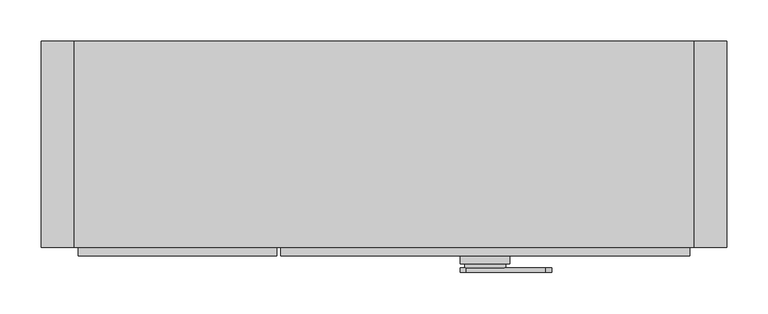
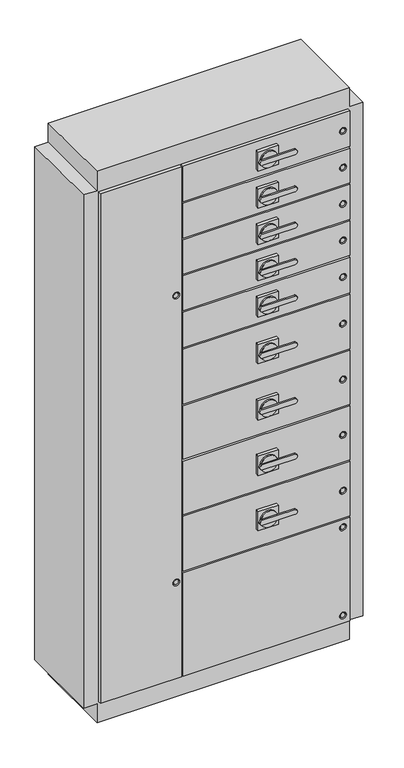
"""IFC4 building model written with IfcOpenShell, lengths in millimetres: electric distribution board geometry, nbl_CubicleSwitchboards_1.0 : nbl_CubicleSwitchboards_1.0."""

from ifc_helpers import new_model, si_unit, point, frame, frame_2d, origin, place, context, project, spatial, polyline, circle_curve, trimmed, segment, composite_curve, outline, extrude, source, transform, mapped, element, save
from ifc_brep_helpers import plane_surface, revolved_surface, advanced_brep


def electric_distribution_board_2e1e9983(model_context):
    return source(origin(), model_context, "Body", "SolidModel", [
        extrude(outline(composite_curve([segment(polyline([(1615.6040038, 195.4759984), (1615.6040038, 99.7713907)]), True, "CONTINUOUS"), segment(trimmed(circle_curve(frame_2d((1608.1040038, 99.7713907)), 7.5), [point((1615.6040038, 99.7713907))], [point((1600.6040038, 99.7713907))], False, "CARTESIAN"), True, "CONTINUOUS"), segment(polyline([(1600.6040038, 99.7713907), (1600.6040038, 195.4759984)]), True, "CONTINUOUS"), segment(trimmed(circle_curve(frame_2d((1608.1040038, 195.4759984)), 7.5), [point((1600.6040038, 195.4759984))], [point((1615.6040038, 195.4759984))], False, "CARTESIAN"), True, "CONTINUOUS")], self_intersect=False)), frame((0.0, -280.0, 0.0), z_axis=(0.0, 1.0, 0.0), x_axis=(0.0, 0.0, 1.0)), (0.0, 0.0, 1.0), 5.0),
        extrude(outline(composite_curve([segment(trimmed(circle_curve(frame_2d((1608.484989, 122.5)), 25.0), [point((1608.484989, 97.5))], [point((1608.484989, 147.5))], False, "CARTESIAN"), True, "CONTINUOUS"), segment(trimmed(circle_curve(frame_2d((1608.484989, 122.5)), 25.0), [point((1608.484989, 147.5))], [point((1608.484989, 97.5))], False, "CARTESIAN"), True, "CONTINUOUS")], self_intersect=False)), frame((0.0, -275.0, 0.0), z_axis=(0.0, 1.0, 0.0), x_axis=(0.0, 0.0, 1.0)), (0.0, 0.0, 1.0), 5.0),
        extrude(outline(polyline([(152.5, -270.0), (92.5, -270.0), (92.5, -260.0), (152.5, -260.0), (152.5, -270.0)])), frame((0.0, 0.0, 1578.9995334), z_axis=(0.0, 0.0, 1.0), x_axis=(1.0, 0.0, 0.0)), (0.0, 0.0, 1.0), 60.0),
        extrude(outline(composite_curve([segment(polyline([(1499.1040038, 195.4759984), (1499.1040038, 99.7713907)]), True, "CONTINUOUS"), segment(trimmed(circle_curve(frame_2d((1491.6040038, 99.7713907)), 7.5), [point((1499.1040038, 99.7713907))], [point((1484.1040038, 99.7713907))], False, "CARTESIAN"), True, "CONTINUOUS"), segment(polyline([(1484.1040038, 99.7713907), (1484.1040038, 195.4759984)]), True, "CONTINUOUS"), segment(trimmed(circle_curve(frame_2d((1491.6040038, 195.4759984)), 7.5), [point((1484.1040038, 195.4759984))], [point((1499.1040038, 195.4759984))], False, "CARTESIAN"), True, "CONTINUOUS")], self_intersect=False)), frame((0.0, -280.0, 0.0), z_axis=(0.0, 1.0, 0.0), x_axis=(0.0, 0.0, 1.0)), (0.0, 0.0, 1.0), 5.0),
        extrude(outline(composite_curve([segment(trimmed(circle_curve(frame_2d((1491.984989, 122.5)), 25.0), [point((1491.984989, 97.5))], [point((1491.984989, 147.5))], False, "CARTESIAN"), True, "CONTINUOUS"), segment(trimmed(circle_curve(frame_2d((1491.984989, 122.5)), 25.0), [point((1491.984989, 147.5))], [point((1491.984989, 97.5))], False, "CARTESIAN"), True, "CONTINUOUS")], self_intersect=False)), frame((0.0, -275.0, 0.0), z_axis=(0.0, 1.0, 0.0), x_axis=(0.0, 0.0, 1.0)), (0.0, 0.0, 1.0), 5.0),
        extrude(outline(polyline([(152.5, -270.0), (92.5, -270.0), (92.5, -260.0), (152.5, -260.0), (152.5, -270.0)])), frame((0.0, 0.0, 1462.4995334), z_axis=(0.0, 0.0, 1.0), x_axis=(1.0, 0.0, 0.0)), (0.0, 0.0, 1.0), 60.0),
        extrude(outline(composite_curve([segment(polyline([(1385.1040038, 195.4759984), (1385.1040038, 99.7713907)]), True, "CONTINUOUS"), segment(trimmed(circle_curve(frame_2d((1377.6040038, 99.7713907)), 7.5), [point((1385.1040038, 99.7713907))], [point((1370.1040038, 99.7713907))], False, "CARTESIAN"), True, "CONTINUOUS"), segment(polyline([(1370.1040038, 99.7713907), (1370.1040038, 195.4759984)]), True, "CONTINUOUS"), segment(trimmed(circle_curve(frame_2d((1377.6040038, 195.4759984)), 7.5), [point((1370.1040038, 195.4759984))], [point((1385.1040038, 195.4759984))], False, "CARTESIAN"), True, "CONTINUOUS")], self_intersect=False)), frame((0.0, -280.0, 0.0), z_axis=(0.0, 1.0, 0.0), x_axis=(0.0, 0.0, 1.0)), (0.0, 0.0, 1.0), 5.0),
        extrude(outline(composite_curve([segment(trimmed(circle_curve(frame_2d((1377.984989, 122.5)), 25.0), [point((1377.984989, 97.5))], [point((1377.984989, 147.5))], False, "CARTESIAN"), True, "CONTINUOUS"), segment(trimmed(circle_curve(frame_2d((1377.984989, 122.5)), 25.0), [point((1377.984989, 147.5))], [point((1377.984989, 97.5))], False, "CARTESIAN"), True, "CONTINUOUS")], self_intersect=False)), frame((0.0, -275.0, 0.0), z_axis=(0.0, 1.0, 0.0), x_axis=(0.0, 0.0, 1.0)), (0.0, 0.0, 1.0), 5.0),
        extrude(outline(polyline([(152.5, -270.0), (92.5, -270.0), (92.5, -260.0), (152.5, -260.0), (152.5, -270.0)])), frame((0.0, 0.0, 1348.4995334), z_axis=(0.0, 0.0, 1.0), x_axis=(1.0, 0.0, 0.0)), (0.0, 0.0, 1.0), 60.0),
        extrude(outline(composite_curve([segment(polyline([(1271.1040038, 195.4759984), (1271.1040038, 99.7713907)]), True, "CONTINUOUS"), segment(trimmed(circle_curve(frame_2d((1263.6040038, 99.7713907)), 7.5), [point((1271.1040038, 99.7713907))], [point((1256.1040038, 99.7713907))], False, "CARTESIAN"), True, "CONTINUOUS"), segment(polyline([(1256.1040038, 99.7713907), (1256.1040038, 195.4759984)]), True, "CONTINUOUS"), segment(trimmed(circle_curve(frame_2d((1263.6040038, 195.4759984)), 7.5), [point((1256.1040038, 195.4759984))], [point((1271.1040038, 195.4759984))], False, "CARTESIAN"), True, "CONTINUOUS")], self_intersect=False)), frame((0.0, -280.0, 0.0), z_axis=(0.0, 1.0, 0.0), x_axis=(0.0, 0.0, 1.0)), (0.0, 0.0, 1.0), 5.0),
        extrude(outline(composite_curve([segment(trimmed(circle_curve(frame_2d((1263.984989, 122.5)), 25.0), [point((1263.984989, 97.5))], [point((1263.984989, 147.5))], False, "CARTESIAN"), True, "CONTINUOUS"), segment(trimmed(circle_curve(frame_2d((1263.984989, 122.5)), 25.0), [point((1263.984989, 147.5))], [point((1263.984989, 97.5))], False, "CARTESIAN"), True, "CONTINUOUS")], self_intersect=False)), frame((0.0, -275.0, 0.0), z_axis=(0.0, 1.0, 0.0), x_axis=(0.0, 0.0, 1.0)), (0.0, 0.0, 1.0), 5.0),
        extrude(outline(polyline([(152.5, -270.0), (92.5, -270.0), (92.5, -260.0), (152.5, -260.0), (152.5, -270.0)])), frame((0.0, 0.0, 1234.4995334), z_axis=(0.0, 0.0, 1.0), x_axis=(1.0, 0.0, 0.0)), (0.0, 0.0, 1.0), 60.0),
        extrude(outline(composite_curve([segment(polyline([(1157.1040038, 195.4759984), (1157.1040038, 99.7713907)]), True, "CONTINUOUS"), segment(trimmed(circle_curve(frame_2d((1149.6040038, 99.7713907)), 7.5), [point((1157.1040038, 99.7713907))], [point((1142.1040038, 99.7713907))], False, "CARTESIAN"), True, "CONTINUOUS"), segment(polyline([(1142.1040038, 99.7713907), (1142.1040038, 195.4759984)]), True, "CONTINUOUS"), segment(trimmed(circle_curve(frame_2d((1149.6040038, 195.4759984)), 7.5), [point((1142.1040038, 195.4759984))], [point((1157.1040038, 195.4759984))], False, "CARTESIAN"), True, "CONTINUOUS")], self_intersect=False)), frame((0.0, -280.0, 0.0), z_axis=(0.0, 1.0, 0.0), x_axis=(0.0, 0.0, 1.0)), (0.0, 0.0, 1.0), 5.0),
        extrude(outline(composite_curve([segment(trimmed(circle_curve(frame_2d((1149.984989, 122.5)), 25.0), [point((1149.984989, 97.5))], [point((1149.984989, 147.5))], False, "CARTESIAN"), True, "CONTINUOUS"), segment(trimmed(circle_curve(frame_2d((1149.984989, 122.5)), 25.0), [point((1149.984989, 147.5))], [point((1149.984989, 97.5))], False, "CARTESIAN"), True, "CONTINUOUS")], self_intersect=False)), frame((0.0, -275.0, 0.0), z_axis=(0.0, 1.0, 0.0), x_axis=(0.0, 0.0, 1.0)), (0.0, 0.0, 1.0), 5.0),
        extrude(outline(polyline([(152.5, -270.0), (92.5, -270.0), (92.5, -260.0), (152.5, -260.0), (152.5, -270.0)])), frame((0.0, 0.0, 1120.4995334), z_axis=(0.0, 0.0, 1.0), x_axis=(1.0, 0.0, 0.0)), (0.0, 0.0, 1.0), 60.0),
        extrude(outline(composite_curve([segment(polyline([(1010.7040038, 195.4759984), (1010.7040038, 99.7713907)]), True, "CONTINUOUS"), segment(trimmed(circle_curve(frame_2d((1003.2040038, 99.7713907)), 7.5), [point((1010.7040038, 99.7713907))], [point((995.7040038, 99.7713907))], False, "CARTESIAN"), True, "CONTINUOUS"), segment(polyline([(995.7040038, 99.7713907), (995.7040038, 195.4759984)]), True, "CONTINUOUS"), segment(trimmed(circle_curve(frame_2d((1003.2040038, 195.4759984)), 7.5), [point((995.7040038, 195.4759984))], [point((1010.7040038, 195.4759984))], False, "CARTESIAN"), True, "CONTINUOUS")], self_intersect=False)), frame((0.0, -280.0, 0.0), z_axis=(0.0, 1.0, 0.0), x_axis=(0.0, 0.0, 1.0)), (0.0, 0.0, 1.0), 5.0),
        extrude(outline(composite_curve([segment(trimmed(circle_curve(frame_2d((1003.584989, 122.5)), 25.0), [point((1003.584989, 97.5))], [point((1003.584989, 147.5))], False, "CARTESIAN"), True, "CONTINUOUS"), segment(trimmed(circle_curve(frame_2d((1003.584989, 122.5)), 25.0), [point((1003.584989, 147.5))], [point((1003.584989, 97.5))], False, "CARTESIAN"), True, "CONTINUOUS")], self_intersect=False)), frame((0.0, -275.0, 0.0), z_axis=(0.0, 1.0, 0.0), x_axis=(0.0, 0.0, 1.0)), (0.0, 0.0, 1.0), 5.0),
        extrude(outline(polyline([(152.5, -270.0), (92.5, -270.0), (92.5, -260.0), (152.5, -260.0), (152.5, -270.0)])), frame((0.0, 0.0, 974.0995334), z_axis=(0.0, 0.0, 1.0), x_axis=(1.0, 0.0, 0.0)), (0.0, 0.0, 1.0), 60.0),
        extrude(outline(composite_curve([segment(polyline([(834.6040038, 195.4759984), (834.6040038, 99.7713907)]), True, "CONTINUOUS"), segment(trimmed(circle_curve(frame_2d((827.1040038, 99.7713907)), 7.5), [point((834.6040038, 99.7713907))], [point((819.6040038, 99.7713907))], False, "CARTESIAN"), True, "CONTINUOUS"), segment(polyline([(819.6040038, 99.7713907), (819.6040038, 195.4759984)]), True, "CONTINUOUS"), segment(trimmed(circle_curve(frame_2d((827.1040038, 195.4759984)), 7.5), [point((819.6040038, 195.4759984))], [point((834.6040038, 195.4759984))], False, "CARTESIAN"), True, "CONTINUOUS")], self_intersect=False)), frame((0.0, -280.0, 0.0), z_axis=(0.0, 1.0, 0.0), x_axis=(0.0, 0.0, 1.0)), (0.0, 0.0, 1.0), 5.0),
        extrude(outline(composite_curve([segment(trimmed(circle_curve(frame_2d((827.484989, 122.5)), 25.0), [point((827.484989, 97.5))], [point((827.484989, 147.5))], False, "CARTESIAN"), True, "CONTINUOUS"), segment(trimmed(circle_curve(frame_2d((827.484989, 122.5)), 25.0), [point((827.484989, 147.5))], [point((827.484989, 97.5))], False, "CARTESIAN"), True, "CONTINUOUS")], self_intersect=False)), frame((0.0, -275.0, 0.0), z_axis=(0.0, 1.0, 0.0), x_axis=(0.0, 0.0, 1.0)), (0.0, 0.0, 1.0), 5.0),
        extrude(outline(polyline([(152.5, -270.0), (92.5, -270.0), (92.5, -260.0), (152.5, -260.0), (152.5, -270.0)])), frame((0.0, 0.0, 797.9995334), z_axis=(0.0, 0.0, 1.0), x_axis=(1.0, 0.0, 0.0)), (0.0, 0.0, 1.0), 60.0),
        extrude(outline(composite_curve([segment(polyline([(660.8040038, 195.4759984), (660.8040038, 99.7713907)]), True, "CONTINUOUS"), segment(trimmed(circle_curve(frame_2d((653.3040038, 99.7713907)), 7.5), [point((660.8040038, 99.7713907))], [point((645.8040038, 99.7713907))], False, "CARTESIAN"), True, "CONTINUOUS"), segment(polyline([(645.8040038, 99.7713907), (645.8040038, 195.4759984)]), True, "CONTINUOUS"), segment(trimmed(circle_curve(frame_2d((653.3040038, 195.4759984)), 7.5), [point((645.8040038, 195.4759984))], [point((660.8040038, 195.4759984))], False, "CARTESIAN"), True, "CONTINUOUS")], self_intersect=False)), frame((0.0, -280.0, 0.0), z_axis=(0.0, 1.0, 0.0), x_axis=(0.0, 0.0, 1.0)), (0.0, 0.0, 1.0), 5.0),
        extrude(outline(composite_curve([segment(trimmed(circle_curve(frame_2d((653.684989, 122.5)), 25.0), [point((653.684989, 97.5))], [point((653.684989, 147.5))], False, "CARTESIAN"), True, "CONTINUOUS"), segment(trimmed(circle_curve(frame_2d((653.684989, 122.5)), 25.0), [point((653.684989, 147.5))], [point((653.684989, 97.5))], False, "CARTESIAN"), True, "CONTINUOUS")], self_intersect=False)), frame((0.0, -275.0, 0.0), z_axis=(0.0, 1.0, 0.0), x_axis=(0.0, 0.0, 1.0)), (0.0, 0.0, 1.0), 5.0),
        extrude(outline(polyline([(152.5, -270.0), (92.5, -270.0), (92.5, -260.0), (152.5, -260.0), (152.5, -270.0)])), frame((0.0, 0.0, 624.1995334), z_axis=(0.0, 0.0, 1.0), x_axis=(1.0, 0.0, 0.0)), (0.0, 0.0, 1.0), 60.0),
        extrude(outline(composite_curve([segment(polyline([(487.0040038, 195.4759984), (487.0040038, 99.7713907)]), True, "CONTINUOUS"), segment(trimmed(circle_curve(frame_2d((479.5040038, 99.7713907)), 7.5), [point((487.0040038, 99.7713907))], [point((472.0040038, 99.7713907))], False, "CARTESIAN"), True, "CONTINUOUS"), segment(polyline([(472.0040038, 99.7713907), (472.0040038, 195.4759984)]), True, "CONTINUOUS"), segment(trimmed(circle_curve(frame_2d((479.5040038, 195.4759984)), 7.5), [point((472.0040038, 195.4759984))], [point((487.0040038, 195.4759984))], False, "CARTESIAN"), True, "CONTINUOUS")], self_intersect=False)), frame((0.0, -280.0, 0.0), z_axis=(0.0, 1.0, 0.0), x_axis=(0.0, 0.0, 1.0)), (0.0, 0.0, 1.0), 5.0),
        extrude(outline(composite_curve([segment(trimmed(circle_curve(frame_2d((479.884989, 122.5)), 25.0), [point((479.884989, 97.5))], [point((479.884989, 147.5))], False, "CARTESIAN"), True, "CONTINUOUS"), segment(trimmed(circle_curve(frame_2d((479.884989, 122.5)), 25.0), [point((479.884989, 147.5))], [point((479.884989, 97.5))], False, "CARTESIAN"), True, "CONTINUOUS")], self_intersect=False)), frame((0.0, -275.0, 0.0), z_axis=(0.0, 1.0, 0.0), x_axis=(0.0, 0.0, 1.0)), (0.0, 0.0, 1.0), 5.0),
        extrude(outline(polyline([(152.5, -270.0), (92.5, -270.0), (92.5, -260.0), (152.5, -260.0), (152.5, -270.0)])), frame((0.0, 0.0, 450.3995334), z_axis=(0.0, 0.0, 1.0), x_axis=(1.0, 0.0, 0.0)), (0.0, 0.0, 1.0), 60.0),
        extrude(outline(composite_curve([segment(trimmed(circle_curve(frame_2d((1265.7495334, -145.0)), 7.0), [point((1265.7495334, -152.0))], [point((1265.7495334, -138.0))], False, "CARTESIAN"), True, "CONTINUOUS"), segment(trimmed(circle_curve(frame_2d((1265.7495334, -145.0)), 7.0), [point((1265.7495334, -138.0))], [point((1265.7495334, -152.0))], False, "CARTESIAN"), True, "CONTINUOUS")], self_intersect=False)), frame((0.0, -258.0, 0.0), z_axis=(0.0, 1.0, 0.0), x_axis=(0.0, 0.0, 1.0)), (0.0, 0.0, 1.0), 5.0),
        extrude(outline(composite_curve([segment(trimmed(circle_curve(frame_2d((365.7495334, -145.0)), 7.0), [point((365.7495334, -152.0))], [point((365.7495334, -138.0))], False, "CARTESIAN"), True, "CONTINUOUS"), segment(trimmed(circle_curve(frame_2d((365.7495334, -145.0)), 7.0), [point((365.7495334, -138.0))], [point((365.7495334, -152.0))], False, "CARTESIAN"), True, "CONTINUOUS")], self_intersect=False)), frame((0.0, -258.0, 0.0), z_axis=(0.0, 1.0, 0.0), x_axis=(0.0, 0.0, 1.0)), (0.0, 0.0, 1.0), 5.0),
        extrude(outline(composite_curve([segment(trimmed(circle_curve(frame_2d((365.7495334, 350.0)), 7.0), [point((365.7495334, 343.0))], [point((365.7495334, 357.0))], False, "CARTESIAN"), True, "CONTINUOUS"), segment(trimmed(circle_curve(frame_2d((365.7495334, 350.0)), 7.0), [point((365.7495334, 357.0))], [point((365.7495334, 343.0))], False, "CARTESIAN"), True, "CONTINUOUS")], self_intersect=False)), frame((0.0, -258.0, 0.0), z_axis=(0.0, 1.0, 0.0), x_axis=(0.0, 0.0, 1.0)), (0.0, 0.0, 1.0), 5.0),
        extrude(outline(composite_curve([segment(trimmed(circle_curve(frame_2d((480.3995334, 350.0)), 7.0), [point((480.3995334, 343.0))], [point((480.3995334, 357.0))], False, "CARTESIAN"), True, "CONTINUOUS"), segment(trimmed(circle_curve(frame_2d((480.3995334, 350.0)), 7.0), [point((480.3995334, 357.0))], [point((480.3995334, 343.0))], False, "CARTESIAN"), True, "CONTINUOUS")], self_intersect=False)), frame((0.0, -258.0, 0.0), z_axis=(0.0, 1.0, 0.0), x_axis=(0.0, 0.0, 1.0)), (0.0, 0.0, 1.0), 5.0),
        extrude(outline(composite_curve([segment(trimmed(circle_curve(frame_2d((655.4495334, 350.0)), 7.0), [point((655.4495334, 343.0))], [point((655.4495334, 357.0))], False, "CARTESIAN"), True, "CONTINUOUS"), segment(trimmed(circle_curve(frame_2d((655.4495334, 350.0)), 7.0), [point((655.4495334, 357.0))], [point((655.4495334, 343.0))], False, "CARTESIAN"), True, "CONTINUOUS")], self_intersect=False)), frame((0.0, -258.0, 0.0), z_axis=(0.0, 1.0, 0.0), x_axis=(0.0, 0.0, 1.0)), (0.0, 0.0, 1.0), 5.0),
        extrude(outline(composite_curve([segment(trimmed(circle_curve(frame_2d((1004.1995334, 350.0)), 7.0), [point((1004.1995334, 343.0))], [point((1004.1995334, 357.0))], False, "CARTESIAN"), True, "CONTINUOUS"), segment(trimmed(circle_curve(frame_2d((1004.1995334, 350.0)), 7.0), [point((1004.1995334, 357.0))], [point((1004.1995334, 343.0))], False, "CARTESIAN"), True, "CONTINUOUS")], self_intersect=False)), frame((0.0, -258.0, 0.0), z_axis=(0.0, 1.0, 0.0), x_axis=(0.0, 0.0, 1.0)), (0.0, 0.0, 1.0), 5.0),
        extrude(outline(composite_curve([segment(trimmed(circle_curve(frame_2d((1150.4995334, 350.0)), 7.0), [point((1150.4995334, 343.0))], [point((1150.4995334, 357.0))], False, "CARTESIAN"), True, "CONTINUOUS"), segment(trimmed(circle_curve(frame_2d((1150.4995334, 350.0)), 7.0), [point((1150.4995334, 357.0))], [point((1150.4995334, 343.0))], False, "CARTESIAN"), True, "CONTINUOUS")], self_intersect=False)), frame((0.0, -258.0, 0.0), z_axis=(0.0, 1.0, 0.0), x_axis=(0.0, 0.0, 1.0)), (0.0, 0.0, 1.0), 5.0),
        extrude(outline(composite_curve([segment(trimmed(circle_curve(frame_2d((1265.7495334, 350.0)), 7.0), [point((1265.7495334, 343.0))], [point((1265.7495334, 357.0))], False, "CARTESIAN"), True, "CONTINUOUS"), segment(trimmed(circle_curve(frame_2d((1265.7495334, 350.0)), 7.0), [point((1265.7495334, 357.0))], [point((1265.7495334, 343.0))], False, "CARTESIAN"), True, "CONTINUOUS")], self_intersect=False)), frame((0.0, -258.0, 0.0), z_axis=(0.0, 1.0, 0.0), x_axis=(0.0, 0.0, 1.0)), (0.0, 0.0, 1.0), 5.0),
        extrude(outline(composite_curve([segment(trimmed(circle_curve(frame_2d((1493.7495334, 350.0)), 7.0), [point((1493.7495334, 343.0))], [point((1493.7495334, 357.0))], False, "CARTESIAN"), True, "CONTINUOUS"), segment(trimmed(circle_curve(frame_2d((1493.7495334, 350.0)), 7.0), [point((1493.7495334, 357.0))], [point((1493.7495334, 343.0))], False, "CARTESIAN"), True, "CONTINUOUS")], self_intersect=False)), frame((0.0, -258.0, 0.0), z_axis=(0.0, 1.0, 0.0), x_axis=(0.0, 0.0, 1.0)), (0.0, 0.0, 1.0), 5.0),
        extrude(outline(composite_curve([segment(trimmed(circle_curve(frame_2d((1608.9995334, 350.0)), 7.0), [point((1608.9995334, 343.0))], [point((1608.9995334, 357.0))], False, "CARTESIAN"), True, "CONTINUOUS"), segment(trimmed(circle_curve(frame_2d((1608.9995334, 350.0)), 7.0), [point((1608.9995334, 357.0))], [point((1608.9995334, 343.0))], False, "CARTESIAN"), True, "CONTINUOUS")], self_intersect=False)), frame((0.0, -258.0, 0.0), z_axis=(0.0, 1.0, 0.0), x_axis=(0.0, 0.0, 1.0)), (0.0, 0.0, 1.0), 5.0),
        extrude(outline(composite_curve([segment(trimmed(circle_curve(frame_2d((829.2495334, 350.0)), 7.0), [point((829.2495334, 343.0))], [point((829.2495334, 357.0))], False, "CARTESIAN"), True, "CONTINUOUS"), segment(trimmed(circle_curve(frame_2d((829.2495334, 350.0)), 7.0), [point((829.2495334, 357.0))], [point((829.2495334, 343.0))], False, "CARTESIAN"), True, "CONTINUOUS")], self_intersect=False)), frame((0.0, -258.0, 0.0), z_axis=(0.0, 1.0, 0.0), x_axis=(0.0, 0.0, 1.0)), (0.0, 0.0, 1.0), 5.0),
        extrude(outline(composite_curve([segment(trimmed(circle_curve(frame_2d((1379.7495334, 350.0)), 7.0), [point((1379.7495334, 343.0))], [point((1379.7495334, 357.0))], False, "CARTESIAN"), True, "CONTINUOUS"), segment(trimmed(circle_curve(frame_2d((1379.7495334, 350.0)), 7.0), [point((1379.7495334, 357.0))], [point((1379.7495334, 343.0))], False, "CARTESIAN"), True, "CONTINUOUS")], self_intersect=False)), frame((0.0, -258.0, 0.0), z_axis=(0.0, 1.0, 0.0), x_axis=(0.0, 0.0, 1.0)), (0.0, 0.0, 1.0), 5.0),
        extrude(outline(composite_curve([segment(trimmed(circle_curve(frame_2d((89.0, 350.0)), 7.0), [point((89.0, 343.0))], [point((89.0, 357.0))], False, "CARTESIAN"), True, "CONTINUOUS"), segment(trimmed(circle_curve(frame_2d((89.0, 350.0)), 7.0), [point((89.0, 357.0))], [point((89.0, 343.0))], False, "CARTESIAN"), True, "CONTINUOUS")], self_intersect=False)), frame((0.0, -258.0, 0.0), z_axis=(0.0, 1.0, 0.0), x_axis=(0.0, 0.0, 1.0)), (0.0, 0.0, 1.0), 5.0),
        advanced_brep(
        [(-130.0, -260.0, 1664.7495334), (-370.0, -260.0, 1664.7495334), (-370.0, -260.0, 65.0), (-130.0, -260.0, 65.0), (-135.0, -260.0, 1265.7495334), (-155.0, -260.0, 1265.7495334), (-135.0, -260.0, 365.7495334), (-155.0, -260.0, 365.7495334), (-130.0, -250.0, 1664.7495334), (-130.0, -250.0, 65.0), (-370.0, -250.0, 65.0), (-370.0, -250.0, 1664.7495334), (-135.0, -253.0, 1265.7495334), (-155.0, -253.0, 1265.7495334), (-135.0, -253.0, 365.7495334), (-155.0, -253.0, 365.7495334)],
        [
            (0, 1),
            (1, 2),
            (2, 3),
            (3, 0),
            (4, 5, circle_curve(frame((-145.0, -260.0, 1265.7495334), z_axis=(0.0, 1.0, 0.0), x_axis=(-1.0, 0.0, 0.0)), 10.0)),
            (5, 4, circle_curve(frame((-145.0, -260.0, 1265.7495334), z_axis=(0.0, 1.0, 0.0), x_axis=(-1.0, 0.0, 0.0)), 10.0)),
            (6, 7, circle_curve(frame((-145.0, -260.0, 365.7495334), z_axis=(0.0, 1.0, 0.0), x_axis=(-1.0, 0.0, 0.0)), 10.0)),
            (7, 6, circle_curve(frame((-145.0, -260.0, 365.7495334), z_axis=(0.0, 1.0, 0.0), x_axis=(-1.0, 0.0, 0.0)), 10.0)),
            (8, 9),
            (9, 10),
            (10, 11),
            (11, 8),
            (0, 8),
            (11, 1),
            (10, 2),
            (9, 3),
            (12, 13, circle_curve(frame((-145.0, -253.0, 1265.7495334), z_axis=(0.0, -1.0, 0.0), x_axis=(-1.0, 0.0, 0.0)), 10.0)),
            (13, 12, circle_curve(frame((-145.0, -253.0, 1265.7495334), z_axis=(0.0, -1.0, 0.0), x_axis=(-1.0, 0.0, 0.0)), 10.0)),
            (14, 15, circle_curve(frame((-145.0, -253.0, 365.7495334), z_axis=(0.0, -1.0, 0.0), x_axis=(-1.0, 0.0, 0.0)), 10.0)),
            (15, 14, circle_curve(frame((-145.0, -253.0, 365.7495334), z_axis=(0.0, -1.0, 0.0), x_axis=(-1.0, 0.0, 0.0)), 10.0)),
            (13, 5),
            (4, 12),
            (15, 7),
            (6, 14),
        ],
        [
            plane_surface(frame((-370.0, -260.0, 1664.7495334), z_axis=(0.0, -1.0, 0.0), x_axis=(-1.0, 0.0, 0.0))),
            plane_surface(frame((-370.0, -250.0, 1664.7495334), z_axis=(0.0, 1.0, 0.0), x_axis=(1.0, 0.0, 0.0))),
            plane_surface(frame((-130.0, -260.0, 1664.7495334), z_axis=(0.0, 0.0, 1.0), x_axis=(0.0, 1.0, 0.0))),
            plane_surface(frame((-370.0, -260.0, 1664.7495334), z_axis=(-1.0, 0.0, 0.0), x_axis=(0.0, 1.0, 0.0))),
            plane_surface(frame((-370.0, -260.0, 65.0), z_axis=(0.0, 0.0, -1.0), x_axis=(0.0, 1.0, 0.0))),
            plane_surface(frame((-130.0, -260.0, 65.0), z_axis=(1.0, 0.0, 0.0), x_axis=(0.0, 1.0, 0.0))),
            plane_surface(frame((-155.0, -253.0, 1265.7495334), z_axis=(0.0, -1.0, 0.0), x_axis=(0.0, 0.0, 1.0))),
            revolved_surface(polyline([(-155.0, -253.0, 1265.7495334), (-155.0, -260.0, 1265.7495334)]), (-145.0, -260.0, 1265.7495334), (0.0, 1.0, 0.0)),
            revolved_surface(polyline([(-155.0, -253.0, 365.7495334), (-155.0, -260.0, 365.7495334)]), (-145.0, -260.0, 365.7495334), (0.0, 1.0, 0.0)),
        ],
        [
            (0, [[1, 2, 3, 4], [5, 6], [7, 8]]),
            (1, [[9, 10, 11, 12]]),
            (2, [[-1, 13, -12, 14]]),
            (3, [[-2, -14, -11, 15]]),
            (4, [[-3, -15, -10, 16]]),
            (5, [[-4, -16, -9, -13]]),
            (6, [[17, 18]]),
            (6, [[19, 20]]),
            (7, [[-18, 21, -5, 22]]),
            (7, [[-17, -22, -6, -21]]),
            (8, [[-20, 23, -7, 24]]),
            (8, [[-19, -24, -8, -23]]),
        ],
    ),
        advanced_brep(
        [(-125.0, -260.0, 389.7495334), (-125.0, -260.0, 65.0), (370.0, -260.0, 65.0), (370.0, -260.0, 389.7495334), (360.0, -260.0, 365.7495334), (340.0, -260.0, 365.7495334), (360.0, -260.0, 89.0), (340.0, -260.0, 89.0), (-125.0, -250.0, 389.7495334), (370.0, -250.0, 389.7495334), (370.0, -250.0, 65.0), (-125.0, -250.0, 65.0), (360.0, -253.0, 365.7495334), (340.0, -253.0, 365.7495334), (360.0, -253.0, 89.0), (340.0, -253.0, 89.0)],
        [
            (0, 1),
            (1, 2),
            (2, 3),
            (3, 0),
            (4, 5, circle_curve(frame((350.0, -260.0, 365.7495334), z_axis=(0.0, 1.0, 0.0), x_axis=(-1.0, 0.0, 0.0)), 10.0)),
            (5, 4, circle_curve(frame((350.0, -260.0, 365.7495334), z_axis=(0.0, 1.0, 0.0), x_axis=(-1.0, 0.0, 0.0)), 10.0)),
            (6, 7, circle_curve(frame((350.0, -260.0, 89.0), z_axis=(0.0, 1.0, 0.0), x_axis=(-1.0, 0.0, 0.0)), 10.0)),
            (7, 6, circle_curve(frame((350.0, -260.0, 89.0), z_axis=(0.0, 1.0, 0.0), x_axis=(-1.0, 0.0, 0.0)), 10.0)),
            (8, 9),
            (9, 10),
            (10, 11),
            (11, 8),
            (0, 8),
            (11, 1),
            (10, 2),
            (9, 3),
            (12, 13, circle_curve(frame((350.0, -253.0, 365.7495334), z_axis=(0.0, -1.0, 0.0), x_axis=(-1.0, 0.0, 0.0)), 10.0)),
            (13, 12, circle_curve(frame((350.0, -253.0, 365.7495334), z_axis=(0.0, -1.0, 0.0), x_axis=(-1.0, 0.0, 0.0)), 10.0)),
            (14, 15, circle_curve(frame((350.0, -253.0, 89.0), z_axis=(0.0, -1.0, 0.0), x_axis=(-1.0, 0.0, 0.0)), 10.0)),
            (15, 14, circle_curve(frame((350.0, -253.0, 89.0), z_axis=(0.0, -1.0, 0.0), x_axis=(-1.0, 0.0, 0.0)), 10.0)),
            (13, 5),
            (4, 12),
            (15, 7),
            (6, 14),
        ],
        [
            plane_surface(frame((-370.0, -260.0, 1664.7495334), z_axis=(0.0, -1.0, 0.0), x_axis=(-1.0, 0.0, 0.0))),
            plane_surface(frame((-370.0, -250.0, 1664.7495334), z_axis=(0.0, 1.0, 0.0), x_axis=(1.0, 0.0, 0.0))),
            plane_surface(frame((-125.0, -260.0, 389.7495334), z_axis=(-1.0, 0.0, 0.0), x_axis=(0.0, 1.0, 0.0))),
            plane_surface(frame((-125.0, -260.0, 65.0), z_axis=(0.0, 0.0, -1.0), x_axis=(0.0, 1.0, 0.0))),
            plane_surface(frame((370.0, -260.0, 65.0), z_axis=(1.0, 0.0, 0.0), x_axis=(0.0, 1.0, 0.0))),
            plane_surface(frame((370.0, -260.0, 389.7495334), z_axis=(0.0, 0.0, 1.0), x_axis=(0.0, 1.0, 0.0))),
            plane_surface(frame((-155.0, -253.0, 1265.7495334), z_axis=(0.0, -1.0, 0.0), x_axis=(0.0, 0.0, 1.0))),
            revolved_surface(polyline([(340.0, -253.0, 365.7495334), (340.0, -260.0, 365.7495334)]), (350.0, -260.0, 365.7495334), (0.0, 1.0, 0.0)),
            revolved_surface(polyline([(340.0, -253.0, 89.0), (340.0, -260.0, 89.0)]), (350.0, -260.0, 89.0), (0.0, 1.0, 0.0)),
        ],
        [
            (0, [[1, 2, 3, 4], [5, 6], [7, 8]]),
            (1, [[9, 10, 11, 12]]),
            (2, [[-1, 13, -12, 14]]),
            (3, [[-2, -14, -11, 15]]),
            (4, [[-3, -15, -10, 16]]),
            (5, [[-4, -16, -9, -13]]),
            (6, [[17, 18]]),
            (6, [[19, 20]]),
            (7, [[-18, 21, -5, 22]]),
            (7, [[-17, -22, -6, -21]]),
            (8, [[-20, 23, -7, 24]]),
            (8, [[-19, -24, -8, -23]]),
        ],
    ),
        advanced_brep(
        [(370.0, -260.0, 566.0495334), (-125.0, -260.0, 566.0495334), (-125.0, -260.0, 394.7495334), (370.0, -260.0, 394.7495334), (360.0, -260.0, 480.3995334), (340.0, -260.0, 480.3995334), (370.0, -250.0, 566.0495334), (370.0, -250.0, 394.7495334), (-125.0, -250.0, 394.7495334), (-125.0, -250.0, 566.0495334), (360.0, -253.0, 480.3995334), (340.0, -253.0, 480.3995334)],
        [
            (0, 1),
            (1, 2),
            (2, 3),
            (3, 0),
            (4, 5, circle_curve(frame((350.0, -260.0, 480.3995334), z_axis=(0.0, 1.0, 0.0), x_axis=(-1.0, 0.0, 0.0)), 10.0)),
            (5, 4, circle_curve(frame((350.0, -260.0, 480.3995334), z_axis=(0.0, 1.0, 0.0), x_axis=(-1.0, 0.0, 0.0)), 10.0)),
            (6, 7),
            (7, 8),
            (8, 9),
            (9, 6),
            (0, 6),
            (9, 1),
            (8, 2),
            (7, 3),
            (10, 11, circle_curve(frame((350.0, -253.0, 480.3995334), z_axis=(0.0, -1.0, 0.0), x_axis=(-1.0, 0.0, 0.0)), 10.0)),
            (11, 10, circle_curve(frame((350.0, -253.0, 480.3995334), z_axis=(0.0, -1.0, 0.0), x_axis=(-1.0, 0.0, 0.0)), 10.0)),
            (11, 5),
            (4, 10),
        ],
        [
            plane_surface(frame((-370.0, -260.0, 1664.7495334), z_axis=(0.0, -1.0, 0.0), x_axis=(-1.0, 0.0, 0.0))),
            plane_surface(frame((-370.0, -250.0, 1664.7495334), z_axis=(0.0, 1.0, 0.0), x_axis=(1.0, 0.0, 0.0))),
            plane_surface(frame((370.0, -260.0, 566.0495334), z_axis=(0.0, 0.0, 1.0), x_axis=(0.0, 1.0, 0.0))),
            plane_surface(frame((-125.0, -260.0, 566.0495334), z_axis=(-1.0, 0.0, 0.0), x_axis=(0.0, 1.0, 0.0))),
            plane_surface(frame((-125.0, -260.0, 394.7495334), z_axis=(0.0, 0.0, -1.0), x_axis=(0.0, 1.0, 0.0))),
            plane_surface(frame((370.0, -260.0, 394.7495334), z_axis=(1.0, 0.0, 0.0), x_axis=(0.0, 1.0, 0.0))),
            plane_surface(frame((-155.0, -253.0, 1265.7495334), z_axis=(0.0, -1.0, 0.0), x_axis=(0.0, 0.0, 1.0))),
            revolved_surface(polyline([(340.0, -253.0, 480.3995334), (340.0, -260.0, 480.3995334)]), (350.0, -260.0, 480.3995334), (0.0, 1.0, 0.0)),
        ],
        [
            (0, [[1, 2, 3, 4], [5, 6]]),
            (1, [[7, 8, 9, 10]]),
            (2, [[-1, 11, -10, 12]]),
            (3, [[-2, -12, -9, 13]]),
            (4, [[-3, -13, -8, 14]]),
            (5, [[-4, -14, -7, -11]]),
            (6, [[15, 16]]),
            (7, [[-16, 17, -5, 18]]),
            (7, [[-15, -18, -6, -17]]),
        ],
    ),
        advanced_brep(
        [(370.0, -260.0, 739.8495334), (-125.0, -260.0, 739.8495334), (-125.0, -260.0, 571.0495334), (370.0, -260.0, 571.0495334), (360.0, -260.0, 655.4495334), (340.0, -260.0, 655.4495334), (370.0, -250.0, 739.8495334), (370.0, -250.0, 571.0495334), (-125.0, -250.0, 571.0495334), (-125.0, -250.0, 739.8495334), (360.0, -253.0, 655.4495334), (340.0, -253.0, 655.4495334)],
        [
            (0, 1),
            (1, 2),
            (2, 3),
            (3, 0),
            (4, 5, circle_curve(frame((350.0, -260.0, 655.4495334), z_axis=(0.0, 1.0, 0.0), x_axis=(-1.0, 0.0, 0.0)), 10.0)),
            (5, 4, circle_curve(frame((350.0, -260.0, 655.4495334), z_axis=(0.0, 1.0, 0.0), x_axis=(-1.0, 0.0, 0.0)), 10.0)),
            (6, 7),
            (7, 8),
            (8, 9),
            (9, 6),
            (0, 6),
            (9, 1),
            (8, 2),
            (7, 3),
            (10, 11, circle_curve(frame((350.0, -253.0, 655.4495334), z_axis=(0.0, -1.0, 0.0), x_axis=(-1.0, 0.0, 0.0)), 10.0)),
            (11, 10, circle_curve(frame((350.0, -253.0, 655.4495334), z_axis=(0.0, -1.0, 0.0), x_axis=(-1.0, 0.0, 0.0)), 10.0)),
            (11, 5),
            (4, 10),
        ],
        [
            plane_surface(frame((-370.0, -260.0, 1664.7495334), z_axis=(0.0, -1.0, 0.0), x_axis=(-1.0, 0.0, 0.0))),
            plane_surface(frame((-370.0, -250.0, 1664.7495334), z_axis=(0.0, 1.0, 0.0), x_axis=(1.0, 0.0, 0.0))),
            plane_surface(frame((370.0, -260.0, 739.8495334), z_axis=(0.0, 0.0, 1.0), x_axis=(0.0, 1.0, 0.0))),
            plane_surface(frame((-125.0, -260.0, 739.8495334), z_axis=(-1.0, 0.0, 0.0), x_axis=(0.0, 1.0, 0.0))),
            plane_surface(frame((-125.0, -260.0, 571.0495334), z_axis=(0.0, 0.0, -1.0), x_axis=(0.0, 1.0, 0.0))),
            plane_surface(frame((370.0, -260.0, 571.0495334), z_axis=(1.0, 0.0, 0.0), x_axis=(0.0, 1.0, 0.0))),
            plane_surface(frame((-155.0, -253.0, 1265.7495334), z_axis=(0.0, -1.0, 0.0), x_axis=(0.0, 0.0, 1.0))),
            revolved_surface(polyline([(340.0, -253.0, 655.4495334), (340.0, -260.0, 655.4495334)]), (350.0, -260.0, 655.4495334), (0.0, 1.0, 0.0)),
        ],
        [
            (0, [[1, 2, 3, 4], [5, 6]]),
            (1, [[7, 8, 9, 10]]),
            (2, [[-1, 11, -10, 12]]),
            (3, [[-2, -12, -9, 13]]),
            (4, [[-3, -13, -8, 14]]),
            (5, [[-4, -14, -7, -11]]),
            (6, [[15, 16]]),
            (7, [[-16, 17, -5, 18]]),
            (7, [[-15, -18, -6, -17]]),
        ],
    ),
        advanced_brep(
        [(370.0, -260.0, 913.6495334), (-125.0, -260.0, 913.6495334), (-125.0, -260.0, 744.8495334), (370.0, -260.0, 744.8495334), (360.0, -260.0, 829.2495334), (340.0, -260.0, 829.2495334), (370.0, -250.0, 913.6495334), (370.0, -250.0, 744.8495334), (-125.0, -250.0, 744.8495334), (-125.0, -250.0, 913.6495334), (360.0, -253.0, 829.2495334), (340.0, -253.0, 829.2495334)],
        [
            (0, 1),
            (1, 2),
            (2, 3),
            (3, 0),
            (4, 5, circle_curve(frame((350.0, -260.0, 829.2495334), z_axis=(0.0, 1.0, 0.0), x_axis=(-1.0, 0.0, 0.0)), 10.0)),
            (5, 4, circle_curve(frame((350.0, -260.0, 829.2495334), z_axis=(0.0, 1.0, 0.0), x_axis=(-1.0, 0.0, 0.0)), 10.0)),
            (6, 7),
            (7, 8),
            (8, 9),
            (9, 6),
            (0, 6),
            (9, 1),
            (8, 2),
            (7, 3),
            (10, 11, circle_curve(frame((350.0, -253.0, 829.2495334), z_axis=(0.0, -1.0, 0.0), x_axis=(-1.0, 0.0, 0.0)), 10.0)),
            (11, 10, circle_curve(frame((350.0, -253.0, 829.2495334), z_axis=(0.0, -1.0, 0.0), x_axis=(-1.0, 0.0, 0.0)), 10.0)),
            (11, 5),
            (4, 10),
        ],
        [
            plane_surface(frame((-370.0, -260.0, 1664.7495334), z_axis=(0.0, -1.0, 0.0), x_axis=(-1.0, 0.0, 0.0))),
            plane_surface(frame((-370.0, -250.0, 1664.7495334), z_axis=(0.0, 1.0, 0.0), x_axis=(1.0, 0.0, 0.0))),
            plane_surface(frame((370.0, -260.0, 913.6495334), z_axis=(0.0, 0.0, 1.0), x_axis=(0.0, 1.0, 0.0))),
            plane_surface(frame((-125.0, -260.0, 913.6495334), z_axis=(-1.0, 0.0, 0.0), x_axis=(0.0, 1.0, 0.0))),
            plane_surface(frame((-125.0, -260.0, 744.8495334), z_axis=(0.0, 0.0, -1.0), x_axis=(0.0, 1.0, 0.0))),
            plane_surface(frame((370.0, -260.0, 744.8495334), z_axis=(1.0, 0.0, 0.0), x_axis=(0.0, 1.0, 0.0))),
            plane_surface(frame((-155.0, -253.0, 1265.7495334), z_axis=(0.0, -1.0, 0.0), x_axis=(0.0, 0.0, 1.0))),
            revolved_surface(polyline([(340.0, -253.0, 829.2495334), (340.0, -260.0, 829.2495334)]), (350.0, -260.0, 829.2495334), (0.0, 1.0, 0.0)),
        ],
        [
            (0, [[1, 2, 3, 4], [5, 6]]),
            (1, [[7, 8, 9, 10]]),
            (2, [[-1, 11, -10, 12]]),
            (3, [[-2, -12, -9, 13]]),
            (4, [[-3, -13, -8, 14]]),
            (5, [[-4, -14, -7, -11]]),
            (6, [[15, 16]]),
            (7, [[-16, 17, -5, 18]]),
            (7, [[-15, -18, -6, -17]]),
        ],
    ),
        advanced_brep(
        [(370.0, -260.0, 1089.7495334), (-125.0, -260.0, 1089.7495334), (-125.0, -260.0, 918.6495334), (370.0, -260.0, 918.6495334), (360.0, -260.0, 1004.1995334), (340.0, -260.0, 1004.1995334), (370.0, -250.0, 1089.7495334), (370.0, -250.0, 918.6495334), (-125.0, -250.0, 918.6495334), (-125.0, -250.0, 1089.7495334), (360.0, -253.0, 1004.1995334), (340.0, -253.0, 1004.1995334)],
        [
            (0, 1),
            (1, 2),
            (2, 3),
            (3, 0),
            (4, 5, circle_curve(frame((350.0, -260.0, 1004.1995334), z_axis=(0.0, 1.0, 0.0), x_axis=(-1.0, 0.0, 0.0)), 10.0)),
            (5, 4, circle_curve(frame((350.0, -260.0, 1004.1995334), z_axis=(0.0, 1.0, 0.0), x_axis=(-1.0, 0.0, 0.0)), 10.0)),
            (6, 7),
            (7, 8),
            (8, 9),
            (9, 6),
            (0, 6),
            (9, 1),
            (8, 2),
            (7, 3),
            (10, 11, circle_curve(frame((350.0, -253.0, 1004.1995334), z_axis=(0.0, -1.0, 0.0), x_axis=(-1.0, 0.0, 0.0)), 10.0)),
            (11, 10, circle_curve(frame((350.0, -253.0, 1004.1995334), z_axis=(0.0, -1.0, 0.0), x_axis=(-1.0, 0.0, 0.0)), 10.0)),
            (11, 5),
            (4, 10),
        ],
        [
            plane_surface(frame((-370.0, -260.0, 1664.7495334), z_axis=(0.0, -1.0, 0.0), x_axis=(-1.0, 0.0, 0.0))),
            plane_surface(frame((-370.0, -250.0, 1664.7495334), z_axis=(0.0, 1.0, 0.0), x_axis=(1.0, 0.0, 0.0))),
            plane_surface(frame((370.0, -260.0, 1089.7495334), z_axis=(0.0, 0.0, 1.0), x_axis=(0.0, 1.0, 0.0))),
            plane_surface(frame((-125.0, -260.0, 1089.7495334), z_axis=(-1.0, 0.0, 0.0), x_axis=(0.0, 1.0, 0.0))),
            plane_surface(frame((-125.0, -260.0, 918.6495334), z_axis=(0.0, 0.0, -1.0), x_axis=(0.0, 1.0, 0.0))),
            plane_surface(frame((370.0, -260.0, 918.6495334), z_axis=(1.0, 0.0, 0.0), x_axis=(0.0, 1.0, 0.0))),
            plane_surface(frame((-155.0, -253.0, 1265.7495334), z_axis=(0.0, -1.0, 0.0), x_axis=(0.0, 0.0, 1.0))),
            revolved_surface(polyline([(340.0, -253.0, 1004.1995334), (340.0, -260.0, 1004.1995334)]), (350.0, -260.0, 1004.1995334), (0.0, 1.0, 0.0)),
        ],
        [
            (0, [[1, 2, 3, 4], [5, 6]]),
            (1, [[7, 8, 9, 10]]),
            (2, [[-1, 11, -10, 12]]),
            (3, [[-2, -12, -9, 13]]),
            (4, [[-3, -13, -8, 14]]),
            (5, [[-4, -14, -7, -11]]),
            (6, [[15, 16]]),
            (7, [[-16, 17, -5, 18]]),
            (7, [[-15, -18, -6, -17]]),
        ],
    ),
        advanced_brep(
        [(370.0, -260.0, 1206.2495334), (-125.0, -260.0, 1206.2495334), (-125.0, -260.0, 1094.7495334), (370.0, -260.0, 1094.7495334), (360.0, -260.0, 1150.4995334), (340.0, -260.0, 1150.4995334), (370.0, -250.0, 1206.2495334), (370.0, -250.0, 1094.7495334), (-125.0, -250.0, 1094.7495334), (-125.0, -250.0, 1206.2495334), (360.0, -253.0, 1150.4995334), (340.0, -253.0, 1150.4995334)],
        [
            (0, 1),
            (1, 2),
            (2, 3),
            (3, 0),
            (4, 5, circle_curve(frame((350.0, -260.0, 1150.4995334), z_axis=(0.0, 1.0, 0.0), x_axis=(-1.0, 0.0, 0.0)), 10.0)),
            (5, 4, circle_curve(frame((350.0, -260.0, 1150.4995334), z_axis=(0.0, 1.0, 0.0), x_axis=(-1.0, 0.0, 0.0)), 10.0)),
            (6, 7),
            (7, 8),
            (8, 9),
            (9, 6),
            (0, 6),
            (9, 1),
            (8, 2),
            (7, 3),
            (10, 11, circle_curve(frame((350.0, -253.0, 1150.4995334), z_axis=(0.0, -1.0, 0.0), x_axis=(-1.0, 0.0, 0.0)), 10.0)),
            (11, 10, circle_curve(frame((350.0, -253.0, 1150.4995334), z_axis=(0.0, -1.0, 0.0), x_axis=(-1.0, 0.0, 0.0)), 10.0)),
            (11, 5),
            (4, 10),
        ],
        [
            plane_surface(frame((-370.0, -260.0, 1664.7495334), z_axis=(0.0, -1.0, 0.0), x_axis=(-1.0, 0.0, 0.0))),
            plane_surface(frame((-370.0, -250.0, 1664.7495334), z_axis=(0.0, 1.0, 0.0), x_axis=(1.0, 0.0, 0.0))),
            plane_surface(frame((370.0, -260.0, 1206.2495334), z_axis=(0.0, 0.0, 1.0), x_axis=(0.0, 1.0, 0.0))),
            plane_surface(frame((-125.0, -260.0, 1206.2495334), z_axis=(-1.0, 0.0, 0.0), x_axis=(0.0, 1.0, 0.0))),
            plane_surface(frame((-125.0, -260.0, 1094.7495334), z_axis=(0.0, 0.0, -1.0), x_axis=(0.0, 1.0, 0.0))),
            plane_surface(frame((370.0, -260.0, 1094.7495334), z_axis=(1.0, 0.0, 0.0), x_axis=(0.0, 1.0, 0.0))),
            plane_surface(frame((-155.0, -253.0, 1265.7495334), z_axis=(0.0, -1.0, 0.0), x_axis=(0.0, 0.0, 1.0))),
            revolved_surface(polyline([(340.0, -253.0, 1150.4995334), (340.0, -260.0, 1150.4995334)]), (350.0, -260.0, 1150.4995334), (0.0, 1.0, 0.0)),
        ],
        [
            (0, [[1, 2, 3, 4], [5, 6]]),
            (1, [[7, 8, 9, 10]]),
            (2, [[-1, 11, -10, 12]]),
            (3, [[-2, -12, -9, 13]]),
            (4, [[-3, -13, -8, 14]]),
            (5, [[-4, -14, -7, -11]]),
            (6, [[15, 16]]),
            (7, [[-16, 17, -5, 18]]),
            (7, [[-15, -18, -6, -17]]),
        ],
    ),
        advanced_brep(
        [(370.0, -260.0, 1320.2495334), (-125.0, -260.0, 1320.2495334), (-125.0, -260.0, 1211.2495334), (370.0, -260.0, 1211.2495334), (360.0, -260.0, 1265.7495334), (340.0, -260.0, 1265.7495334), (370.0, -250.0, 1320.2495334), (370.0, -250.0, 1211.2495334), (-125.0, -250.0, 1211.2495334), (-125.0, -250.0, 1320.2495334), (360.0, -253.0, 1265.7495334), (340.0, -253.0, 1265.7495334)],
        [
            (0, 1),
            (1, 2),
            (2, 3),
            (3, 0),
            (4, 5, circle_curve(frame((350.0, -260.0, 1265.7495334), z_axis=(0.0, 1.0, 0.0), x_axis=(-1.0, 0.0, 0.0)), 10.0)),
            (5, 4, circle_curve(frame((350.0, -260.0, 1265.7495334), z_axis=(0.0, 1.0, 0.0), x_axis=(-1.0, 0.0, 0.0)), 10.0)),
            (6, 7),
            (7, 8),
            (8, 9),
            (9, 6),
            (0, 6),
            (9, 1),
            (8, 2),
            (7, 3),
            (10, 11, circle_curve(frame((350.0, -253.0, 1265.7495334), z_axis=(0.0, -1.0, 0.0), x_axis=(-1.0, 0.0, 0.0)), 10.0)),
            (11, 10, circle_curve(frame((350.0, -253.0, 1265.7495334), z_axis=(0.0, -1.0, 0.0), x_axis=(-1.0, 0.0, 0.0)), 10.0)),
            (11, 5),
            (4, 10),
        ],
        [
            plane_surface(frame((-370.0, -260.0, 1664.7495334), z_axis=(0.0, -1.0, 0.0), x_axis=(-1.0, 0.0, 0.0))),
            plane_surface(frame((-370.0, -250.0, 1664.7495334), z_axis=(0.0, 1.0, 0.0), x_axis=(1.0, 0.0, 0.0))),
            plane_surface(frame((370.0, -260.0, 1320.2495334), z_axis=(0.0, 0.0, 1.0), x_axis=(0.0, 1.0, 0.0))),
            plane_surface(frame((-125.0, -260.0, 1320.2495334), z_axis=(-1.0, 0.0, 0.0), x_axis=(0.0, 1.0, 0.0))),
            plane_surface(frame((-125.0, -260.0, 1211.2495334), z_axis=(0.0, 0.0, -1.0), x_axis=(0.0, 1.0, 0.0))),
            plane_surface(frame((370.0, -260.0, 1211.2495334), z_axis=(1.0, 0.0, 0.0), x_axis=(0.0, 1.0, 0.0))),
            plane_surface(frame((-155.0, -253.0, 1265.7495334), z_axis=(0.0, -1.0, 0.0), x_axis=(0.0, 0.0, 1.0))),
            revolved_surface(polyline([(340.0, -253.0, 1265.7495334), (340.0, -260.0, 1265.7495334)]), (350.0, -260.0, 1265.7495334), (0.0, 1.0, 0.0)),
        ],
        [
            (0, [[1, 2, 3, 4], [5, 6]]),
            (1, [[7, 8, 9, 10]]),
            (2, [[-1, 11, -10, 12]]),
            (3, [[-2, -12, -9, 13]]),
            (4, [[-3, -13, -8, 14]]),
            (5, [[-4, -14, -7, -11]]),
            (6, [[15, 16]]),
            (7, [[-16, 17, -5, 18]]),
            (7, [[-15, -18, -6, -17]]),
        ],
    ),
        advanced_brep(
        [(370.0, -260.0, 1434.2495334), (-125.0, -260.0, 1434.2495334), (-125.0, -260.0, 1325.2495334), (370.0, -260.0, 1325.2495334), (360.0, -260.0, 1379.7495334), (340.0, -260.0, 1379.7495334), (370.0, -250.0, 1434.2495334), (370.0, -250.0, 1325.2495334), (-125.0, -250.0, 1325.2495334), (-125.0, -250.0, 1434.2495334), (360.0, -253.0, 1379.7495334), (340.0, -253.0, 1379.7495334)],
        [
            (0, 1),
            (1, 2),
            (2, 3),
            (3, 0),
            (4, 5, circle_curve(frame((350.0, -260.0, 1379.7495334), z_axis=(0.0, 1.0, 0.0), x_axis=(-1.0, 0.0, 0.0)), 10.0)),
            (5, 4, circle_curve(frame((350.0, -260.0, 1379.7495334), z_axis=(0.0, 1.0, 0.0), x_axis=(-1.0, 0.0, 0.0)), 10.0)),
            (6, 7),
            (7, 8),
            (8, 9),
            (9, 6),
            (0, 6),
            (9, 1),
            (8, 2),
            (7, 3),
            (10, 11, circle_curve(frame((350.0, -253.0, 1379.7495334), z_axis=(0.0, -1.0, 0.0), x_axis=(-1.0, 0.0, 0.0)), 10.0)),
            (11, 10, circle_curve(frame((350.0, -253.0, 1379.7495334), z_axis=(0.0, -1.0, 0.0), x_axis=(-1.0, 0.0, 0.0)), 10.0)),
            (11, 5),
            (4, 10),
        ],
        [
            plane_surface(frame((-370.0, -260.0, 1664.7495334), z_axis=(0.0, -1.0, 0.0), x_axis=(-1.0, 0.0, 0.0))),
            plane_surface(frame((-370.0, -250.0, 1664.7495334), z_axis=(0.0, 1.0, 0.0), x_axis=(1.0, 0.0, 0.0))),
            plane_surface(frame((370.0, -260.0, 1434.2495334), z_axis=(0.0, 0.0, 1.0), x_axis=(0.0, 1.0, 0.0))),
            plane_surface(frame((-125.0, -260.0, 1434.2495334), z_axis=(-1.0, 0.0, 0.0), x_axis=(0.0, 1.0, 0.0))),
            plane_surface(frame((-125.0, -260.0, 1325.2495334), z_axis=(0.0, 0.0, -1.0), x_axis=(0.0, 1.0, 0.0))),
            plane_surface(frame((370.0, -260.0, 1325.2495334), z_axis=(1.0, 0.0, 0.0), x_axis=(0.0, 1.0, 0.0))),
            plane_surface(frame((-155.0, -253.0, 1265.7495334), z_axis=(0.0, -1.0, 0.0), x_axis=(0.0, 0.0, 1.0))),
            revolved_surface(polyline([(340.0, -253.0, 1379.7495334), (340.0, -260.0, 1379.7495334)]), (350.0, -260.0, 1379.7495334), (0.0, 1.0, 0.0)),
        ],
        [
            (0, [[1, 2, 3, 4], [5, 6]]),
            (1, [[7, 8, 9, 10]]),
            (2, [[-1, 11, -10, 12]]),
            (3, [[-2, -12, -9, 13]]),
            (4, [[-3, -13, -8, 14]]),
            (5, [[-4, -14, -7, -11]]),
            (6, [[15, 16]]),
            (7, [[-16, 17, -5, 18]]),
            (7, [[-15, -18, -6, -17]]),
        ],
    ),
        advanced_brep(
        [(370.0, -260.0, 1548.2495334), (-125.0, -260.0, 1548.2495334), (-125.0, -260.0, 1439.2495334), (370.0, -260.0, 1439.2495334), (360.0, -260.0, 1493.7495334), (340.0, -260.0, 1493.7495334), (370.0, -250.0, 1548.2495334), (370.0, -250.0, 1439.2495334), (-125.0, -250.0, 1439.2495334), (-125.0, -250.0, 1548.2495334), (360.0, -253.0, 1493.7495334), (340.0, -253.0, 1493.7495334)],
        [
            (0, 1),
            (1, 2),
            (2, 3),
            (3, 0),
            (4, 5, circle_curve(frame((350.0, -260.0, 1493.7495334), z_axis=(0.0, 1.0, 0.0), x_axis=(-1.0, 0.0, 0.0)), 10.0)),
            (5, 4, circle_curve(frame((350.0, -260.0, 1493.7495334), z_axis=(0.0, 1.0, 0.0), x_axis=(-1.0, 0.0, 0.0)), 10.0)),
            (6, 7),
            (7, 8),
            (8, 9),
            (9, 6),
            (0, 6),
            (9, 1),
            (8, 2),
            (7, 3),
            (10, 11, circle_curve(frame((350.0, -253.0, 1493.7495334), z_axis=(0.0, -1.0, 0.0), x_axis=(-1.0, 0.0, 0.0)), 10.0)),
            (11, 10, circle_curve(frame((350.0, -253.0, 1493.7495334), z_axis=(0.0, -1.0, 0.0), x_axis=(-1.0, 0.0, 0.0)), 10.0)),
            (11, 5),
            (4, 10),
        ],
        [
            plane_surface(frame((-370.0, -260.0, 1664.7495334), z_axis=(0.0, -1.0, 0.0), x_axis=(-1.0, 0.0, 0.0))),
            plane_surface(frame((-370.0, -250.0, 1664.7495334), z_axis=(0.0, 1.0, 0.0), x_axis=(1.0, 0.0, 0.0))),
            plane_surface(frame((370.0, -260.0, 1548.2495334), z_axis=(0.0, 0.0, 1.0), x_axis=(0.0, 1.0, 0.0))),
            plane_surface(frame((-125.0, -260.0, 1548.2495334), z_axis=(-1.0, 0.0, 0.0), x_axis=(0.0, 1.0, 0.0))),
            plane_surface(frame((-125.0, -260.0, 1439.2495334), z_axis=(0.0, 0.0, -1.0), x_axis=(0.0, 1.0, 0.0))),
            plane_surface(frame((370.0, -260.0, 1439.2495334), z_axis=(1.0, 0.0, 0.0), x_axis=(0.0, 1.0, 0.0))),
            plane_surface(frame((-155.0, -253.0, 1265.7495334), z_axis=(0.0, -1.0, 0.0), x_axis=(0.0, 0.0, 1.0))),
            revolved_surface(polyline([(340.0, -253.0, 1493.7495334), (340.0, -260.0, 1493.7495334)]), (350.0, -260.0, 1493.7495334), (0.0, 1.0, 0.0)),
        ],
        [
            (0, [[1, 2, 3, 4], [5, 6]]),
            (1, [[7, 8, 9, 10]]),
            (2, [[-1, 11, -10, 12]]),
            (3, [[-2, -12, -9, 13]]),
            (4, [[-3, -13, -8, 14]]),
            (5, [[-4, -14, -7, -11]]),
            (6, [[15, 16]]),
            (7, [[-16, 17, -5, 18]]),
            (7, [[-15, -18, -6, -17]]),
        ],
    ),
        advanced_brep(
        [(370.0, -260.0, 1664.7495334), (-125.0, -260.0, 1664.7495334), (-125.0, -260.0, 1553.2495334), (370.0, -260.0, 1553.2495334), (360.0, -260.0, 1608.9995334), (340.0, -260.0, 1608.9995334), (370.0, -250.0, 1664.7495334), (370.0, -250.0, 1553.2495334), (-125.0, -250.0, 1553.2495334), (-125.0, -250.0, 1664.7495334), (360.0, -253.0, 1608.9995334), (340.0, -253.0, 1608.9995334)],
        [
            (0, 1),
            (1, 2),
            (2, 3),
            (3, 0),
            (4, 5, circle_curve(frame((350.0, -260.0, 1608.9995334), z_axis=(0.0, 1.0, 0.0), x_axis=(-1.0, 0.0, 0.0)), 10.0)),
            (5, 4, circle_curve(frame((350.0, -260.0, 1608.9995334), z_axis=(0.0, 1.0, 0.0), x_axis=(-1.0, 0.0, 0.0)), 10.0)),
            (6, 7),
            (7, 8),
            (8, 9),
            (9, 6),
            (0, 6),
            (9, 1),
            (8, 2),
            (7, 3),
            (10, 11, circle_curve(frame((350.0, -253.0, 1608.9995334), z_axis=(0.0, -1.0, 0.0), x_axis=(-1.0, 0.0, 0.0)), 10.0)),
            (11, 10, circle_curve(frame((350.0, -253.0, 1608.9995334), z_axis=(0.0, -1.0, 0.0), x_axis=(-1.0, 0.0, 0.0)), 10.0)),
            (11, 5),
            (4, 10),
        ],
        [
            plane_surface(frame((-370.0, -260.0, 1664.7495334), z_axis=(0.0, -1.0, 0.0), x_axis=(-1.0, 0.0, 0.0))),
            plane_surface(frame((-370.0, -250.0, 1664.7495334), z_axis=(0.0, 1.0, 0.0), x_axis=(1.0, 0.0, 0.0))),
            plane_surface(frame((370.0, -260.0, 1664.7495334), z_axis=(0.0, 0.0, 1.0), x_axis=(0.0, 1.0, 0.0))),
            plane_surface(frame((-125.0, -260.0, 1664.7495334), z_axis=(-1.0, 0.0, 0.0), x_axis=(0.0, 1.0, 0.0))),
            plane_surface(frame((-125.0, -260.0, 1553.2495334), z_axis=(0.0, 0.0, -1.0), x_axis=(0.0, 1.0, 0.0))),
            plane_surface(frame((370.0, -260.0, 1553.2495334), z_axis=(1.0, 0.0, 0.0), x_axis=(0.0, 1.0, 0.0))),
            plane_surface(frame((-155.0, -253.0, 1265.7495334), z_axis=(0.0, -1.0, 0.0), x_axis=(0.0, 0.0, 1.0))),
            revolved_surface(polyline([(340.0, -253.0, 1608.9995334), (340.0, -260.0, 1608.9995334)]), (350.0, -260.0, 1608.9995334), (0.0, 1.0, 0.0)),
        ],
        [
            (0, [[1, 2, 3, 4], [5, 6]]),
            (1, [[7, 8, 9, 10]]),
            (2, [[-1, 11, -10, 12]]),
            (3, [[-2, -12, -9, 13]]),
            (4, [[-3, -13, -8, 14]]),
            (5, [[-4, -14, -7, -11]]),
            (6, [[15, 16]]),
            (7, [[-16, 17, -5, 18]]),
            (7, [[-15, -18, -6, -17]]),
        ],
    ),
        extrude(outline(polyline([(1729.7495334, 375.0), (1729.7495334, -375.0), (1669.7495334, -375.0), (1669.7495334, -415.0), (60.0, -415.0), (60.0, -375.0), (0.0, -375.0), (0.0, 375.0), (60.0, 375.0), (60.0, 415.0), (1669.7495334, 415.0), (1669.7495334, 375.0), (1729.7495334, 375.0)])), frame((0.0, -250.0, 0.0), z_axis=(0.0, 1.0, 0.0), x_axis=(0.0, 0.0, 1.0)), (0.0, 0.0, 1.0), 250.0),
    ])


if __name__ == "__main__":
    model = new_model("IFC4")
    model_context = context("Model", 3, world=origin())
    ifc_project = project(units=[si_unit("LENGTHUNIT", "METRE", prefix="MILLI")], contexts=[model_context])
    site = spatial("IfcSite", under=ifc_project)
    building = spatial("IfcBuilding", under=site)
    placement = place(None, origin())
    electric_distribution_board_shape = electric_distribution_board_2e1e9983(model_context)
    element("IfcElectricDistributionBoard", 1, ObjectType="nbl_CubicleSwitchboards_1.0 : nbl_CubicleSwitchboards_1.0", at=placement, inside=building, context=model_context, shape_type="MappedRepresentation", body=[
        mapped(electric_distribution_board_shape, transform((0.0, 0.0, 0.0), x_axis=(1.0, 0.0, 0.0), y_axis=(0.0, 1.0, 0.0), z_axis=(0.0, 0.0, 1.0))),
    ])
    save(model, "model.ifc")
